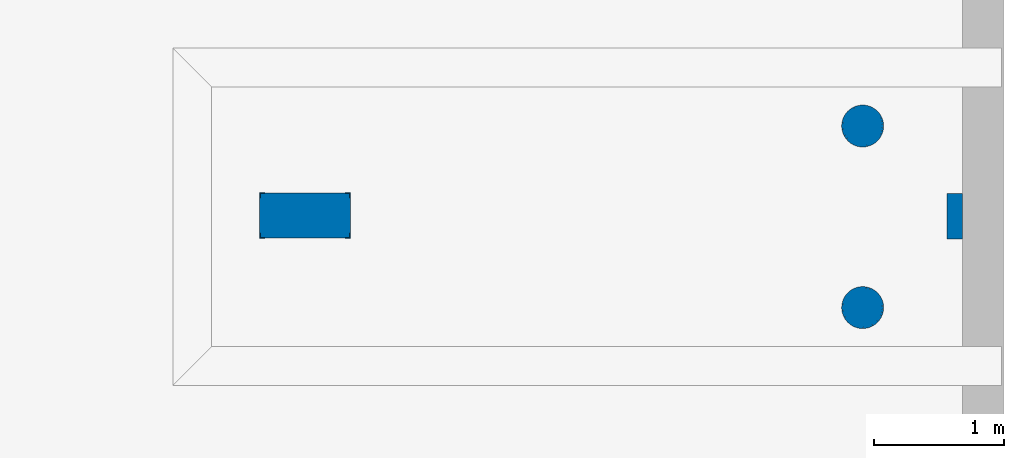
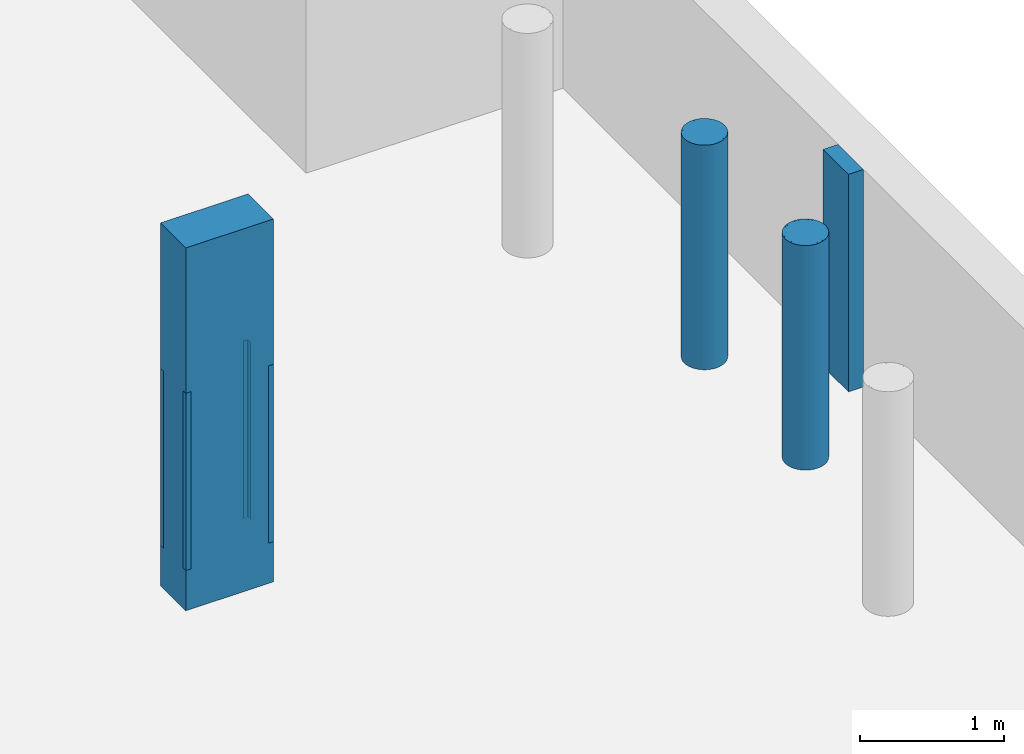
# One storey, part 19 of 42: 8 columns.
"""IFC2X3 building model written with IfcOpenShell, lengths in millimetres."""

import ifcopenshell
import ifcopenshell.guid

model = None  # the IFC model being written
_history = None  # IfcOwnerHistory: only IFC2X3 demands one
_inside = {}  # id of a spatial element -> (the spatial element, [elements in it])
_under = {}  # id of a project, library or spatial element -> (it, [spatial elements below it])
_declared = {}  # id of a project -> (the project, [libraries it declares])
_typed = {}  # id of a type object -> (the type object, [elements of that type])
_made_of = {}  # id of a material, layer set ... -> (it, [elements and type objects made of it])


def new_model(schema):
    """Start an empty IFC model of exactly this schema.

    Asked for "IFC4X3", IfcOpenShell would pick the latest addendum, in which some entities
    have other attributes; the version numbers below select the first issue.
    IFC2X3 requires an IfcOwnerHistory on every rooted entity: one is made here for all.
    """
    global model, _history
    if schema == "IFC4X3":
        model = ifcopenshell.file(schema_version=(4, 3, 0, 0))
    else:
        model = ifcopenshell.file(schema=schema)
    _inside.clear()
    _under.clear()
    _declared.clear()
    _typed.clear()
    _made_of.clear()
    _history = None
    if model.schema == "IFC2X3":
        org = make("IfcOrganization", Name="unknown")
        user = make(
            "IfcPersonAndOrganization",
            ThePerson=make("IfcPerson", FamilyName="unknown"),
            TheOrganization=org,
        )
        app = make(
            "IfcApplication",
            ApplicationDeveloper=org,
            Version="unknown",
            ApplicationFullName="unknown",
            ApplicationIdentifier="unknown",
        )
        _history = make(
            "IfcOwnerHistory",
            OwningUser=user,
            OwningApplication=app,
            ChangeAction="ADDED",
            CreationDate=0,
        )
    return model


def make(cls, **values):
    """One entity of the class cls with the attributes given. An attribute that is None is left unset."""
    return model.create_entity(
        cls, **{name: value for name, value in values.items() if value is not None}
    )


def entity(cls, *values):
    """Any entity or typed value of the class cls, its attributes in the order of the schema. None: left unset."""
    e = model.create_entity(cls)
    for i, value in enumerate(values):
        if value is not None:
            e[i] = value
    return e


def rooted(cls, **values):
    """An entity with a GlobalId (a new one), such as an element, a storey or a relation."""
    return make(cls, GlobalId=ifcopenshell.guid.new(), OwnerHistory=_history, **values)


def si_unit(unit_type, name, prefix=None):
    """IfcSIUnit, for example si_unit("LENGTHUNIT", "METRE", prefix="MILLI")."""
    return make("IfcSIUnit", UnitType=unit_type, Prefix=prefix, Name=name)


def converted_unit(unit_type, name, factor, base, dimensions=None, offset=None):
    """IfcConversionBasedUnit, such as the inch: factor (a typed value) times the base unit."""
    return make(
        "IfcConversionBasedUnit"
        if offset is None
        else "IfcConversionBasedUnitWithOffset",
        ConversionOffset=offset,
        Dimensions=None
        if dimensions is None
        else entity("IfcDimensionalExponents", *dimensions),
        UnitType=unit_type,
        Name=name,
        ConversionFactor=make(
            "IfcMeasureWithUnit", ValueComponent=factor, UnitComponent=base
        ),
    )


def derived_unit(unit_type, elements):
    """IfcDerivedUnit: a product of units, each with its exponent."""
    return make(
        "IfcDerivedUnit",
        Elements=[
            make("IfcDerivedUnitElement", Unit=unit, Exponent=power)
            for unit, power in elements
        ],
        UnitType=unit_type,
    )


def assignment(units):
    """IfcUnitAssignment: the units of a project."""
    return None if units is None else make("IfcUnitAssignment", Units=units)


def point(xyz):
    """IfcCartesianPoint."""
    return None if xyz is None else make("IfcCartesianPoint", Coordinates=xyz)


def direction(xyz):
    """IfcDirection."""
    return None if xyz is None else make("IfcDirection", DirectionRatios=xyz)


def frame(location, z_axis=None, x_axis=None):
    """IfcAxis2Placement3D, a coordinate frame: its origin and axes. An axis left out is left unset."""
    return make(
        "IfcAxis2Placement3D",
        Location=point(location),
        Axis=direction(z_axis),
        RefDirection=direction(x_axis),
    )


def frame_2d(location, x_axis=None):
    """IfcAxis2Placement2D, a coordinate frame in the plane: its origin and x axis."""
    return make(
        "IfcAxis2Placement2D", Location=point(location), RefDirection=direction(x_axis)
    )


def origin():
    """The frame at (0, 0, 0) with its axes left unset."""
    return frame((0.0, 0.0, 0.0))


def origin_2d_with_axis():
    """The frame at (0, 0) in the plane with the x axis (1, 0) written out."""
    return frame_2d((0.0, 0.0), x_axis=(1.0, 0.0))


def place(relative_to, where):
    """IfcLocalPlacement: puts the frame where relative to a parent placement (None: the world)."""
    return make(
        "IfcLocalPlacement", PlacementRelTo=relative_to, RelativePlacement=where
    )


def context(
    kind, dimensions, precision=None, world=None, true_north=None, identifier=None
):
    """IfcGeometricRepresentationContext, for example the 3D "Model" context."""
    return make(
        "IfcGeometricRepresentationContext",
        ContextIdentifier=identifier,
        ContextType=kind,
        CoordinateSpaceDimension=dimensions,
        Precision=precision,
        WorldCoordinateSystem=world,
        TrueNorth=true_north,
    )


def subcontext(parent, identifier, kind, view, scale=None):
    """IfcGeometricRepresentationSubContext, for example "Body" below "Model"."""
    return make(
        "IfcGeometricRepresentationSubContext",
        ContextIdentifier=identifier,
        ContextType=kind,
        ParentContext=parent,
        TargetScale=scale,
        TargetView=view,
    )


def project(units=None, contexts=None):
    """IfcProject with its units and contexts."""
    return rooted(
        "IfcProject",
        Name="project",
        RepresentationContexts=contexts,
        UnitsInContext=assignment(units),
    )


def spatial(cls, under=None, at=None, **own):
    """A site, building, storey or space (cls), placed at a placement, below another one or the project."""
    s = rooted(cls, ObjectPlacement=at, **own)
    if under is not None:
        _under.setdefault(under.id(), (under, []))[1].append(s)
    return s


def polyline(points):
    """IfcPolyline through the points."""
    return make("IfcPolyline", Points=[point(p) for p in points])


def circle_curve(where, radius):
    """IfcCircle in the frame where."""
    return make("IfcCircle", Position=where, Radius=radius)


def parameter(value):
    """IfcParameterValue: where a trimmed curve begins or ends, as a parameter of its basis curve."""
    return model.create_entity("IfcParameterValue", value)


def trimmed(basis, trim1, trim2, sense, master):
    """IfcTrimmedCurve: the piece of a basis curve between two trims."""
    return make(
        "IfcTrimmedCurve",
        BasisCurve=basis,
        Trim1=trim1,
        Trim2=trim2,
        SenseAgreement=sense,
        MasterRepresentation=master,
    )


def segment(curve, same_sense, transition):
    """IfcCompositeCurveSegment."""
    return make(
        "IfcCompositeCurveSegment",
        Transition=transition,
        SameSense=same_sense,
        ParentCurve=curve,
    )


def composite_curve(segments, self_intersect=None):
    """IfcCompositeCurve: segments joined end to end."""
    return make("IfcCompositeCurve", Segments=segments, SelfIntersect=self_intersect)


def profile(cls, at=None, kind="AREA", **sizes):
    """A parametric profile (cls). Its sizes go by their IFC names, for example OverallWidth=200.0."""
    return make(cls, ProfileType=kind, Position=at, **sizes)


def rectangle(**sizes):
    """IfcRectangleProfileDef."""
    return profile("IfcRectangleProfileDef", **sizes)


def circle(**sizes):
    """IfcCircleProfileDef."""
    return profile("IfcCircleProfileDef", **sizes)


def hollow_circle(**sizes):
    """IfcCircleHollowProfileDef."""
    return profile("IfcCircleHollowProfileDef", **sizes)


def outline(outer, holes=None, kind="AREA"):
    """IfcArbitraryClosedProfileDef: a profile drawn as a closed curve; with holes, ...WithVoids."""
    if holes is None:
        return make("IfcArbitraryClosedProfileDef", ProfileType=kind, OuterCurve=outer)
    return make(
        "IfcArbitraryProfileDefWithVoids",
        ProfileType=kind,
        OuterCurve=outer,
        InnerCurves=holes,
    )


def extrude(swept, where, along, depth):
    """IfcExtrudedAreaSolid: the profile swept, set in the frame where, extruded along a direction by depth."""
    return make(
        "IfcExtrudedAreaSolid",
        SweptArea=swept,
        Position=where,
        ExtrudedDirection=direction(along),
        Depth=depth,
    )


def shape(context_of_items, identifier, shape_type, items):
    """IfcShapeRepresentation: the items that make up one representation, for example the "Body"."""
    return make(
        "IfcShapeRepresentation",
        ContextOfItems=context_of_items,
        RepresentationIdentifier=identifier,
        RepresentationType=shape_type,
        Items=items,
    )


def source(mapping_origin, context_of_items, identifier, shape_type, items):
    """IfcRepresentationMap: a shape defined once, which mapped items show again and again."""
    return make(
        "IfcRepresentationMap",
        MappingOrigin=mapping_origin,
        MappedRepresentation=shape(context_of_items, identifier, shape_type, items),
    )


def transform(
    local_origin,
    x_axis=None,
    y_axis=None,
    z_axis=None,
    scale=None,
    scale2=None,
    scale3=None,
    uniform=True,
):
    """IfcCartesianTransformationOperator3D, or its non-uniform kind. x_axis, y_axis, z_axis: its Axis1, 2, 3."""
    if uniform:
        return make(
            "IfcCartesianTransformationOperator3D",
            Axis1=direction(x_axis),
            Axis2=direction(y_axis),
            LocalOrigin=point(local_origin),
            Scale=scale,
            Axis3=direction(z_axis),
        )
    return make(
        "IfcCartesianTransformationOperator3DnonUniform",
        Axis1=direction(x_axis),
        Axis2=direction(y_axis),
        LocalOrigin=point(local_origin),
        Scale=scale,
        Axis3=direction(z_axis),
        Scale2=scale2,
        Scale3=scale3,
    )


def mapped(mapping_source, mapping_target):
    """IfcMappedItem: shows the shape of a source again, moved by a transform."""
    return make(
        "IfcMappedItem", MappingSource=mapping_source, MappingTarget=mapping_target
    )


def material(Name=None, Category=None):
    """IfcMaterial."""
    return make("IfcMaterial", Name=Name, Category=Category)


def material_list(materials):
    """IfcMaterialList."""
    return make("IfcMaterialList", Materials=materials)


def made_of(thing, what):
    """Note that an element or type object is made of a material, layer set ...; save() writes the relation."""
    if what is not None:
        _made_of.setdefault(what.id(), (what, []))[1].append(thing)
    return thing


def type_object(cls, material=None, **own):
    """A type object (cls), such as IfcWallType, which elements share."""
    return made_of(rooted(cls, **own), material)


def type_shapes(of_type, sources):
    """Give a type object the sources (RepresentationMaps) that its elements show as mapped items."""
    of_type.RepresentationMaps = sources


def element(
    cls,
    number,
    at=None,
    inside=None,
    cuts=None,
    type_object=None,
    material=None,
    context=None,
    identifier="Body",
    shape_type=None,
    held_by="IfcProductDefinitionShape",
    body=None,
    shapes=None,
    **own,
):
    """One element of the class cls, such as IfcWall. Its Tag is "e" and its number.

    at: its placement. inside: the storey or other place that contains it. cuts: it is an
    opening in that element (IfcRelVoidsElement). A single representation is given by context,
    identifier, shape_type and body (its items); several are given by shapes. held_by: the class
    of the entity that holds the representations. save() writes the other relations.
    """
    e = rooted(cls, Tag="e%d" % number, ObjectPlacement=at, **own)
    if body is not None:
        shapes = [shape(context, identifier, shape_type, body)]
    if shapes is not None:
        e.Representation = make(held_by, Representations=shapes)
    if inside is not None:
        _inside.setdefault(inside.id(), (inside, []))[1].append(e)
    if cuts is not None:
        rooted(
            "IfcRelVoidsElement", RelatingBuildingElement=cuts, RelatedOpeningElement=e
        )
    if type_object is not None:
        _typed.setdefault(type_object.id(), (type_object, []))[1].append(e)
    return made_of(e, material)


def aggregate(whole, parts):
    """IfcRelAggregates: a whole, such as a stair, and the parts it consists of."""
    return rooted("IfcRelAggregates", RelatingObject=whole, RelatedObjects=parts)


def save(model, path):
    """Write the relations noted so far, then the file.

    IfcRelAggregates (storeys below a building ...), IfcRelContainedInSpatialStructure (elements
    in a storey), IfcRelDefinesByType, IfcRelAssociatesMaterial and IfcRelDeclares: one each for
    every whole, place, type object, material and project.
    """
    for whole, parts in _under.values():
        aggregate(whole, parts)
    for where, things in _inside.values():
        rooted(
            "IfcRelContainedInSpatialStructure",
            RelatedElements=things,
            RelatingStructure=where,
        )
    for kind, things in _typed.values():
        rooted("IfcRelDefinesByType", RelatedObjects=things, RelatingType=kind)
    for what, things in _made_of.values():
        rooted("IfcRelAssociatesMaterial", RelatedObjects=things, RelatingMaterial=what)
    for by, libraries in _declared.values():
        rooted("IfcRelDeclares", RelatingContext=by, RelatedDefinitions=libraries)
    model.write(path)


model = new_model("IFC2X3")

# Units and contexts
model_context = context("Model", 3, precision=0.01, world=origin(), true_north=direction((6.12303176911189e-17, 1.0)))
body_context = subcontext(model_context, "Body", "Model", "MODEL_VIEW")
ifc_project = project(units=[si_unit("LENGTHUNIT", "METRE", prefix="MILLI"), si_unit("AREAUNIT", "SQUARE_METRE", prefix="MILLI"), si_unit("VOLUMEUNIT", "CUBIC_METRE"), converted_unit("PLANEANGLEUNIT", "DEGREE", entity("IfcRatioMeasure", 0.0174532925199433), si_unit("PLANEANGLEUNIT", "RADIAN"), dimensions=[0, 0, 0, 0, 0, 0, 0]), si_unit("MASSUNIT", "GRAM", prefix="KILO"), derived_unit("MASSDENSITYUNIT", [(si_unit("MASSUNIT", "GRAM", prefix="KILO"), 1), (si_unit("LENGTHUNIT", "METRE"), -3)]), derived_unit("MOMENTOFINERTIAUNIT", [(si_unit("LENGTHUNIT", "METRE"), 4)]), si_unit("TIMEUNIT", "SECOND"), si_unit("FREQUENCYUNIT", "HERTZ"), si_unit("THERMODYNAMICTEMPERATUREUNIT", "DEGREE_CELSIUS"), derived_unit("THERMALTRANSMITTANCEUNIT", [(si_unit("MASSUNIT", "GRAM", prefix="KILO"), 1), (si_unit("THERMODYNAMICTEMPERATUREUNIT", "KELVIN"), -1), (si_unit("TIMEUNIT", "SECOND"), -3)]), derived_unit("VOLUMETRICFLOWRATEUNIT", [(si_unit("LENGTHUNIT", "METRE"), 3), (si_unit("TIMEUNIT", "SECOND"), -1)]), si_unit("ELECTRICCURRENTUNIT", "AMPERE"), si_unit("ELECTRICVOLTAGEUNIT", "VOLT"), si_unit("POWERUNIT", "WATT"), si_unit("FORCEUNIT", "NEWTON", prefix="KILO"), si_unit("ILLUMINANCEUNIT", "LUX"), si_unit("LUMINOUSFLUXUNIT", "LUMEN"), si_unit("LUMINOUSINTENSITYUNIT", "CANDELA"), derived_unit("USERDEFINED", [(si_unit("MASSUNIT", "GRAM", prefix="KILO"), -1), (si_unit("LENGTHUNIT", "METRE"), -2), (si_unit("TIMEUNIT", "SECOND"), 3), (si_unit("LUMINOUSFLUXUNIT", "LUMEN"), 1)]), derived_unit("LINEARVELOCITYUNIT", [(si_unit("LENGTHUNIT", "METRE"), 1), (si_unit("TIMEUNIT", "SECOND"), -1)]), si_unit("PRESSUREUNIT", "PASCAL"), derived_unit("USERDEFINED", [(si_unit("LENGTHUNIT", "METRE"), -2), (si_unit("MASSUNIT", "GRAM", prefix="KILO"), 1), (si_unit("TIMEUNIT", "SECOND"), -2)]), derived_unit("LINEARFORCEUNIT", [(si_unit("MASSUNIT", "GRAM", prefix="KILO"), 1), (si_unit("LENGTHUNIT", "METRE"), 1), (si_unit("TIMEUNIT", "SECOND"), -2), (si_unit("LENGTHUNIT", "METRE"), -1)]), derived_unit("PLANARFORCEUNIT", [(si_unit("MASSUNIT", "GRAM", prefix="KILO"), 1), (si_unit("LENGTHUNIT", "METRE"), 1), (si_unit("TIMEUNIT", "SECOND"), -2), (si_unit("LENGTHUNIT", "METRE"), -2)])], contexts=[model_context])

# Site, building, storey
site_placement = place(None, origin())
site = spatial("IfcSite", under=ifc_project, at=site_placement, Name="Theater aan de Parade", CompositionType="ELEMENT")
building_placement = place(site_placement, origin())
building = spatial("IfcBuilding", under=site, at=building_placement, Name="Theater aan de Parade", CompositionType="ELEMENT")
storey_placement = place(building_placement, frame((0.0, 0.0, -3300.0)))
storey = spatial("IfcBuildingStorey", under=building, at=storey_placement, Name="-1 kelder", CompositionType="ELEMENT", Elevation=-3300.0)

# Columns
ifc_material_1 = material(Name="00_PBT_MAT_beton t.p.g.")
column_type_1 = type_object("IfcColumnType", Name="28_PBT_SC_beton_rechthoekig:700x350_bestaand", PredefinedType="COLUMN", material=ifc_material_1)
shared_shape_1 = source(origin(), body_context, "Body", "SweptSolid", [
    extrude(rectangle(XDim=350.000000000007, YDim=700.000000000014, at=origin_2d_with_axis()), frame((83290.0, 39975.0, -2640.0), z_axis=(0.0, 0.0, 1.0), x_axis=(0.0, -1.0, 0.0)), (0.0, 0.0, 1.0), 3070.00000000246),
])
type_shapes(column_type_1, [shared_shape_1])
column_1_placement = place(storey_placement, frame((0.0, 0.0, 3300.0)))
element("IfcColumn", 1, at=column_1_placement, inside=storey, type_object=column_type_1, material=ifc_material_1, Name="28_PBT_SC_beton_rechthoekig:700x350_bestaand", ObjectType="28_PBT_SC_beton_rechthoekig:700x350_bestaand", context=body_context, shape_type="MappedRepresentation", body=[
    mapped(shared_shape_1, transform((0.0, 0.0, 0.0), scale=1.0)),
])
ifc_material_2 = material(Name="00_PBT_MAT_staal")
column_type_2 = type_object("IfcColumnType", Name="28_PBT_SC_staal_L-profiel:L40x40x4_bestaand", PredefinedType="COLUMN", material=ifc_material_2)
shared_shape_2 = source(origin(), body_context, "Body", "SweptSolid", [
    extrude(outline(composite_curve([segment(polyline([(-15.1111111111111, -15.1111111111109), (24.8888888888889, -15.1111111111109)]), True, "CONTINUOUS"), segment(polyline([(24.8888888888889, -15.1111111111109), (24.8888888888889, -14.1111111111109)]), True, "CONTINUOUS"), segment(trimmed(circle_curve(frame_2d((21.8888888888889, -14.1111111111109), x_axis=(1.0, 0.0)), 3.0), [parameter(0.0)], [parameter(90.0000000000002)], True, "PARAMETER"), True, "CONTINUOUS"), segment(polyline([(21.8888888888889, -11.1111111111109), (-5.11111111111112, -11.1111111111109)]), True, "CONTINUOUS"), segment(trimmed(circle_curve(frame_2d((-5.11111111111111, -5.11111111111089), x_axis=(0.0, -1.0)), 6.0), [parameter(270.0)], [parameter(0.0)], True, "PARAMETER"), False, "CONTINUOUS"), segment(polyline([(-11.1111111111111, -5.11111111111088), (-11.1111111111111, 21.8888888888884)]), True, "CONTINUOUS"), segment(trimmed(circle_curve(frame_2d((-14.1111111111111, 21.8888888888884), x_axis=(1.0, 0.0)), 3.0), [parameter(0.0)], [parameter(90.0000000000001)], True, "PARAMETER"), True, "CONTINUOUS"), segment(polyline([(-14.1111111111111, 24.8888888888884), (-15.1111111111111, 24.8888888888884)]), True, "CONTINUOUS"), segment(polyline([(-15.1111111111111, 24.8888888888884), (-15.1111111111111, -15.1111111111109)]), True, "CONTINUOUS")], self_intersect=False)), frame((3.91111111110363, -3.9111111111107, -2300.0), z_axis=(0.0, 0.0, 1.0), x_axis=(0.0, -1.0, 0.0)), (0.0, 0.0, 1.0), 1500.0),
])
type_shapes(column_type_2, [shared_shape_2])
column_2_placement = place(storey_placement, frame((82951.2, 40138.7999999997, 3300.0)))
element("IfcColumn", 2, at=column_2_placement, inside=storey, type_object=column_type_2, material=ifc_material_2, Name="28_PBT_SC_staal_L-profiel:L40x40x4_bestaand", ObjectType="28_PBT_SC_staal_L-profiel:L40x40x4_bestaand", context=body_context, shape_type="MappedRepresentation", body=[
    mapped(shared_shape_2, transform((0.0, 0.0, 0.0), scale=1.0)),
])
column_3_placement = place(storey_placement, frame((83628.7999999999, 39811.1999999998, 3300.0), z_axis=(0.0, 0.0, 1.0), x_axis=(-1.0, 0.0, 0.0)))
element("IfcColumn", 3, at=column_3_placement, inside=storey, type_object=column_type_2, material=ifc_material_2, Name="28_PBT_SC_staal_L-profiel:L40x40x4_bestaand", ObjectType="28_PBT_SC_staal_L-profiel:L40x40x4_bestaand", context=body_context, shape_type="MappedRepresentation", body=[
    mapped(shared_shape_2, transform((0.0, 0.0, 0.0), scale=1.0)),
])
column_type_3 = type_object("IfcColumnType", Name="28_PBT_SC_staal_L-profiel:L40x40x4_bestaand", PredefinedType="COLUMN", material=ifc_material_2)
shared_shape_3 = source(origin(), body_context, "Body", "SweptSolid", [
    extrude(outline(composite_curve([segment(polyline([(-24.8888888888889, -15.1111111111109), (15.1111111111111, -15.1111111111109)]), True, "CONTINUOUS"), segment(polyline([(15.1111111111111, -15.1111111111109), (15.1111111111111, 24.8888888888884)]), True, "CONTINUOUS"), segment(polyline([(15.1111111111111, 24.8888888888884), (14.1111111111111, 24.8888888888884)]), True, "CONTINUOUS"), segment(trimmed(circle_curve(frame_2d((14.1111111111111, 21.8888888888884), x_axis=(0.0, 1.0)), 3.0), [parameter(0.0)], [parameter(89.9999999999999)], True, "PARAMETER"), True, "CONTINUOUS"), segment(polyline([(11.1111111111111, 21.8888888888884), (11.1111111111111, -5.11111111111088)]), True, "CONTINUOUS"), segment(trimmed(circle_curve(frame_2d((5.1111111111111, -5.1111111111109), x_axis=(1.0, 0.0)), 6.0), [parameter(270.0)], [parameter(0.0)], True, "PARAMETER"), False, "CONTINUOUS"), segment(polyline([(5.11111111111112, -11.1111111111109), (-21.8888888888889, -11.1111111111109)]), True, "CONTINUOUS"), segment(trimmed(circle_curve(frame_2d((-21.8888888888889, -14.1111111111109), x_axis=(0.0, 1.0)), 3.0), [parameter(0.0)], [parameter(90.0000000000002)], True, "PARAMETER"), True, "CONTINUOUS"), segment(polyline([(-24.8888888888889, -14.1111111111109), (-24.8888888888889, -15.1111111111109)]), True, "CONTINUOUS")], self_intersect=False)), frame((3.91111111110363, 3.91111111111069, -2300.0), z_axis=(0.0, 0.0, 1.0), x_axis=(0.0, -1.0, 0.0)), (0.0, 0.0, 1.0), 1500.0),
])
type_shapes(column_type_3, [shared_shape_3])
column_4_placement = place(storey_placement, frame((83628.7999999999, 40138.7999999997, 3300.0), z_axis=(0.0, 0.0, 1.0), x_axis=(-1.0, 0.0, 0.0)))
element("IfcColumn", 4, at=column_4_placement, inside=storey, type_object=column_type_3, material=ifc_material_2, Name="28_PBT_SC_staal_L-profiel:L40x40x4_bestaand", ObjectType="28_PBT_SC_staal_L-profiel:L40x40x4_bestaand", context=body_context, shape_type="MappedRepresentation", body=[
    mapped(shared_shape_3, transform((0.0, 0.0, 0.0), scale=1.0)),
])
column_5_placement = place(storey_placement, frame((82951.2, 39811.1999999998, 3300.0)))
element("IfcColumn", 5, at=column_5_placement, inside=storey, type_object=column_type_3, material=ifc_material_2, Name="28_PBT_SC_staal_L-profiel:L40x40x4_bestaand", ObjectType="28_PBT_SC_staal_L-profiel:L40x40x4_bestaand", context=body_context, shape_type="MappedRepresentation", body=[
    mapped(shared_shape_3, transform((0.0, 0.0, 0.0), scale=1.0)),
])
column_type_4 = type_object("IfcColumnType", Name="16_PBT_SC_beton_rechthoekig:350x350_bestaand", PredefinedType="COLUMN", material=ifc_material_1)
shared_shape_4 = source(origin(), body_context, "Body", "SweptSolid", [
    extrude(rectangle(XDim=350.000000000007, YDim=120.000000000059, at=frame_2d((0.0, 8.66506866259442e-12), x_axis=(1.0, 0.0))), frame((88300.0, 39970.0, -2640.0), z_axis=(0.0, 0.0, 1.0), x_axis=(0.0, -1.0, 0.0)), (0.0, 0.0, 1.0), 1840.0),
])
type_shapes(column_type_4, [shared_shape_4])
column_6_placement = place(storey_placement, frame((0.0, 0.0, 3300.0)))
element("IfcColumn", 6, at=column_6_placement, inside=storey, type_object=column_type_4, material=ifc_material_1, Name="16_PBT_SC_beton_rechthoekig:350x350_bestaand", ObjectType="16_PBT_SC_beton_rechthoekig:350x350_bestaand", context=body_context, shape_type="MappedRepresentation", body=[
    mapped(shared_shape_4, transform((0.0, 0.0, 0.0), scale=1.0)),
])
ifc_material_3 = material(Name="00_PBT_MAT_staal_S355")
ifc_material_4 = material(Name="00_PBT_MAT_beton t.p.g._C40/50")
ifc_material_list_1 = material_list([ifc_material_3, ifc_material_4])
ifc_material_list_2 = material_list([ifc_material_3, ifc_material_4])
column_type_5 = type_object("IfcColumnType", Name="28_PBT_SC_staal_buis:S355_B323.9x10_GB_C40/50", PredefinedType="COLUMN", material=ifc_material_list_2)
shared_shape_5 = source(origin(), body_context, "Body", "SweptSolid", [
    extrude(hollow_circle(Radius=161.95, WallThickness=9.99999999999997, at=frame_2d((1.77837538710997e-15, -2.97621380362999e-13), x_axis=(1.0, 0.0))), frame((0.0, 0.0, -2640.0), z_axis=(0.0, 0.0, 1.0), x_axis=(-1.0, 0.0, 0.0)), (0.0, 0.0, 1.0), 1900.00000000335),
    extrude(circle(Radius=151.95, at=frame_2d((-6.17986865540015e-15, 1.29141200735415e-12), x_axis=(1.0, 0.0))), frame((0.0, 0.0, -2640.0)), (0.0, 0.0, 1.0), 1900.00000000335),
])
type_shapes(column_type_5, [shared_shape_5])
column_7_placement = place(storey_placement, frame((87590.0, 39265.0, 3300.0)))
element("IfcColumn", 7, at=column_7_placement, inside=storey, type_object=column_type_5, material=ifc_material_list_1, Name="28_PBT_SC_staal_buis:S355_B323.9x10_GB_C40/50", ObjectType="28_PBT_SC_staal_buis:S355_B323.9x10_GB_C40/50", context=body_context, shape_type="MappedRepresentation", body=[
    mapped(shared_shape_5, transform((0.0, 0.0, 0.0), scale=1.0)),
])
ifc_material_list_3 = material_list([ifc_material_3, ifc_material_4])
column_8_placement = place(storey_placement, frame((87590.0, 40665.0, 3300.0)))
element("IfcColumn", 8, at=column_8_placement, inside=storey, type_object=column_type_5, material=ifc_material_list_3, Name="28_PBT_SC_staal_buis:S355_B323.9x10_GB_C40/50", ObjectType="28_PBT_SC_staal_buis:S355_B323.9x10_GB_C40/50", context=body_context, shape_type="MappedRepresentation", body=[
    mapped(shared_shape_5, transform((0.0, 0.0, 0.0), scale=1.0)),
])

save(model, "model.ifc")
